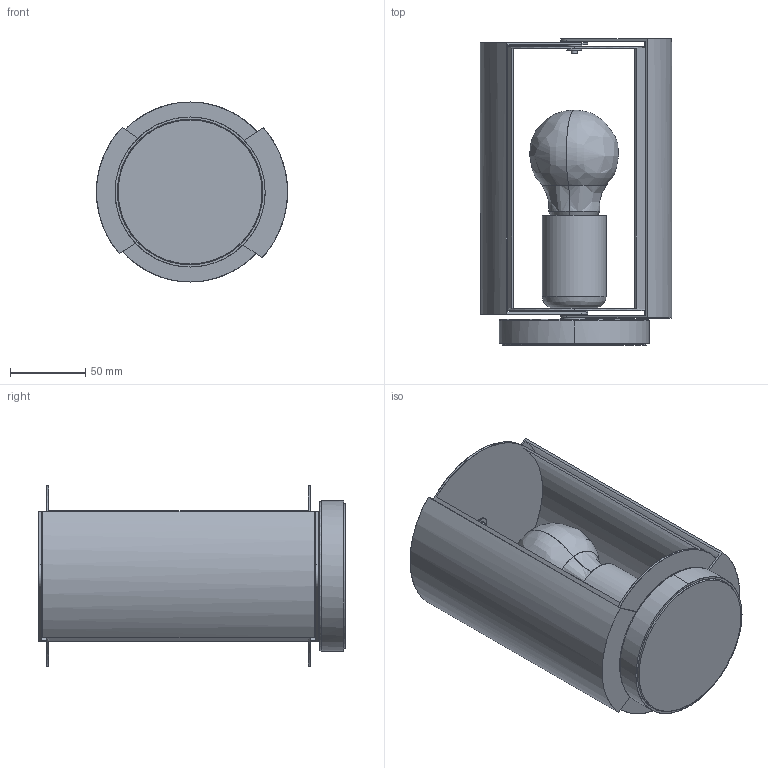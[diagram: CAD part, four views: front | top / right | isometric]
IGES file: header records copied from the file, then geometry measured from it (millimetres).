
Global section: file name: C:\Users\tungari.NEMOLIGHTING\Desktop\3D\TABLE\3D_PIVOTANT_A_POSER\Nuova cartella\OK\3D_PIVOTANT_A_POSER.igs; native system: Rhinoceros ( Jun 17 2014 ); preprocessor: Trout Lake IGES 012 Jun 17 2014; date: 180301.140418; units: millimetre
Bounding box: 127.43 x 204 x 120 mm (x, y, z)
Surface area: 279177.5 mm2 (no closed solid volume)
Topology: 0 solids, 0 shells, 155 faces, 1378 edges, 1376 vertices
Faces by surface type: bspline 155
